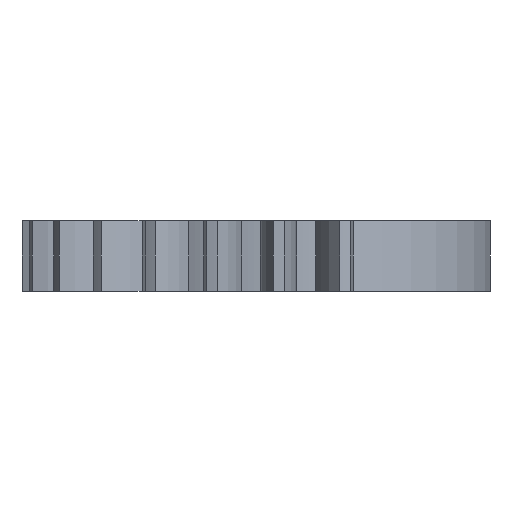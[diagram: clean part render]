
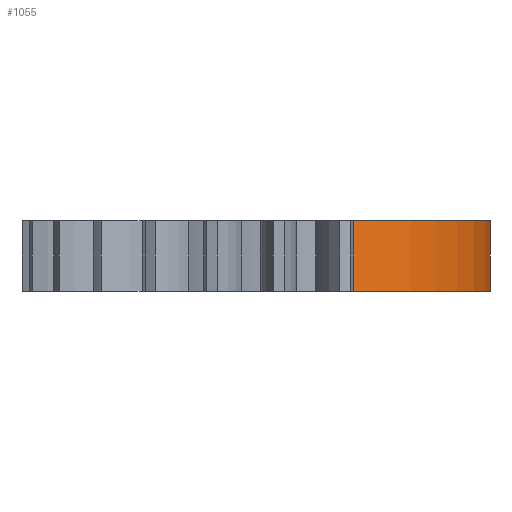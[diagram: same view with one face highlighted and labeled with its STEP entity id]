
A CAD part, left-side view. The second image highlights one B-rep face of the part: STEP entity #1055.
In plain terms, the highlighted cylindrical face has radius 12.09 mm (diameter 24.18 mm), a partial arc.
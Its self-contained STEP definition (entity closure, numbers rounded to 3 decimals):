
#73=FACE_OUTER_BOUND('',#129,.T.);
#129=EDGE_LOOP('',(#829,#830,#831,#832));
#191=LINE('',#1917,#249);
#192=LINE('',#1923,#250);
#249=VECTOR('',#1583,4.);
#250=VECTOR('',#1590,4.);
#353=CIRCLE('',#1224,12.09);
#354=CIRCLE('',#1225,12.09);
#459=VERTEX_POINT('',#1914);
#460=VERTEX_POINT('',#1916);
#461=VERTEX_POINT('',#1920);
#462=VERTEX_POINT('',#1922);
#616=EDGE_CURVE('',#460,#459,#191,.T.);
#618=EDGE_CURVE('',#459,#461,#353,.T.);
#619=EDGE_CURVE('',#462,#461,#192,.T.);
#620=EDGE_CURVE('',#460,#462,#354,.T.);
#829=ORIENTED_EDGE('',*,*,#618,.T.);
#830=ORIENTED_EDGE('',*,*,#619,.F.);
#831=ORIENTED_EDGE('',*,*,#620,.F.);
#832=ORIENTED_EDGE('',*,*,#616,.T.);
#1002=CYLINDRICAL_SURFACE('',#1223,12.09);
#1055=ADVANCED_FACE('',(#73),#1002,.T.);
#1223=AXIS2_PLACEMENT_3D('',#1919,#1586,#1587);
#1224=AXIS2_PLACEMENT_3D('',#1921,#1588,#1589);
#1225=AXIS2_PLACEMENT_3D('',#1924,#1591,#1592);
#1583=DIRECTION('',(0.,0.,-1.));
#1586=DIRECTION('center_axis',(0.,0.,-1.));
#1587=DIRECTION('ref_axis',(-1.,0.,0.));
#1588=DIRECTION('center_axis',(0.,0.,1.));
#1589=DIRECTION('ref_axis',(1.,0.,0.));
#1590=DIRECTION('',(0.,0.,-1.));
#1591=DIRECTION('center_axis',(0.,0.,1.));
#1592=DIRECTION('ref_axis',(1.,0.,0.));
#1914=CARTESIAN_POINT('',(-11.366,-4.122,-2.));
#1916=CARTESIAN_POINT('',(-11.366,-4.122,2.));
#1917=CARTESIAN_POINT('',(-11.366,-4.122,2.));
#1919=CARTESIAN_POINT('Origin',(0.,0.,2.));
#1920=CARTESIAN_POINT('',(11.409,-4.,-2.));
#1921=CARTESIAN_POINT('Origin',(0.,0.,-2.));
#1922=CARTESIAN_POINT('',(11.409,-4.,2.));
#1923=CARTESIAN_POINT('',(11.409,-4.,2.));
#1924=CARTESIAN_POINT('Origin',(0.,0.,2.));
